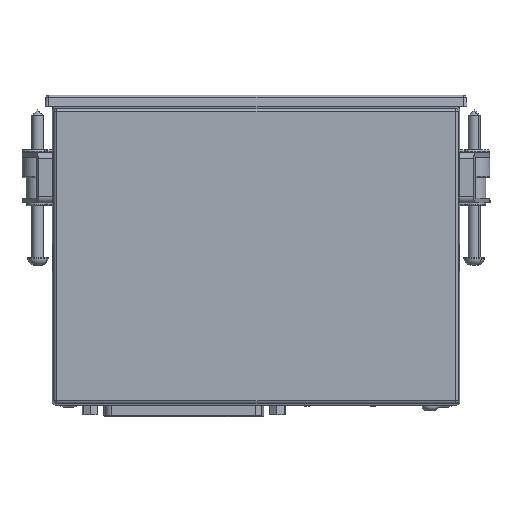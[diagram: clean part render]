
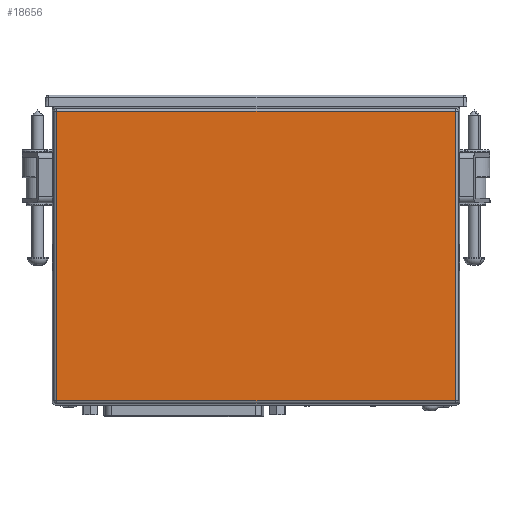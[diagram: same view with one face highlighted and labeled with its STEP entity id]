
A CAD part, front view. The second image highlights one B-rep face of the part: STEP entity #18656.
In plain terms, the highlighted planar face has unit normal (0, -1, 0).
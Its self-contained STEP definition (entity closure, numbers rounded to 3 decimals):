
#3666 = VERTEX_POINT ( 'NONE', #49171 ) ;
#6636 = ORIENTED_EDGE ( 'NONE', *, *, #7955, .T. ) ;
#6801 = LINE ( 'NONE', #56228, #71200 ) ;
#7955 = EDGE_CURVE ( 'NONE', #77046, #55699, #41928, .T. ) ;
#12865 = CARTESIAN_POINT ( 'NONE',  ( -67.471, -21.5, -100.388 ) ) ;
#18656 = ADVANCED_FACE ( 'NONE', ( #26779 ), #67370, .T. ) ;
#18999 = CARTESIAN_POINT ( 'NONE',  ( 0., -21.5, 0. ) ) ;
#19206 = ORIENTED_EDGE ( 'NONE', *, *, #38825, .T. ) ;
#20865 = VECTOR ( 'NONE', #54178, 1000. ) ;
#20984 = CARTESIAN_POINT ( 'NONE',  ( -67.471, -21.5, -1.529 ) ) ;
#23517 = LINE ( 'NONE', #58965, #46963 ) ;
#23534 = CARTESIAN_POINT ( 'NONE',  ( -67.471, -21.5, -99.471 ) ) ;
#26384 = EDGE_CURVE ( 'NONE', #64685, #77046, #35921, .T. ) ;
#26779 = FACE_OUTER_BOUND ( 'NONE', #40359, .T. ) ;
#29897 = CARTESIAN_POINT ( 'NONE',  ( 67.471, -21.5, -1.529 ) ) ;
#32811 = ORIENTED_EDGE ( 'NONE', *, *, #26384, .T. ) ;
#35548 = DIRECTION ( 'NONE',  ( -1., 0., 0. ) ) ;
#35921 = LINE ( 'NONE', #76895, #64058 ) ;
#36086 = DIRECTION ( 'NONE',  ( 1., 0., 0. ) ) ;
#38825 = EDGE_CURVE ( 'NONE', #55699, #3666, #23517, .T. ) ;
#40359 = EDGE_LOOP ( 'NONE', ( #75679, #32811, #6636, #19206 ) ) ;
#41928 = LINE ( 'NONE', #12865, #20865 ) ;
#43325 = DIRECTION ( 'NONE',  ( 0., -1., 0. ) ) ;
#44380 = DIRECTION ( 'NONE',  ( 0., 0., 1. ) ) ;
#46963 = VECTOR ( 'NONE', #36086, 1000. ) ;
#49171 = CARTESIAN_POINT ( 'NONE',  ( 67.471, -21.5, -99.471 ) ) ;
#54178 = DIRECTION ( 'NONE',  ( 0., 0., -1. ) ) ;
#55699 = VERTEX_POINT ( 'NONE', #23534 ) ;
#56228 = CARTESIAN_POINT ( 'NONE',  ( 67.471, -21.5, -0.612 ) ) ;
#58965 = CARTESIAN_POINT ( 'NONE',  ( 68.388, -21.5, -99.471 ) ) ;
#60650 = AXIS2_PLACEMENT_3D ( 'NONE', #18999, #43325, #68129 ) ;
#64058 = VECTOR ( 'NONE', #35548, 1000. ) ;
#64685 = VERTEX_POINT ( 'NONE', #29897 ) ;
#67370 = PLANE ( 'NONE',  #60650 ) ;
#68129 = DIRECTION ( 'NONE',  ( 0., 0., -1. ) ) ;
#71200 = VECTOR ( 'NONE', #44380, 1000. ) ;
#71927 = EDGE_CURVE ( 'NONE', #3666, #64685, #6801, .T. ) ;
#75679 = ORIENTED_EDGE ( 'NONE', *, *, #71927, .T. ) ;
#76895 = CARTESIAN_POINT ( 'NONE',  ( -68.388, -21.5, -1.529 ) ) ;
#77046 = VERTEX_POINT ( 'NONE', #20984 ) ;
